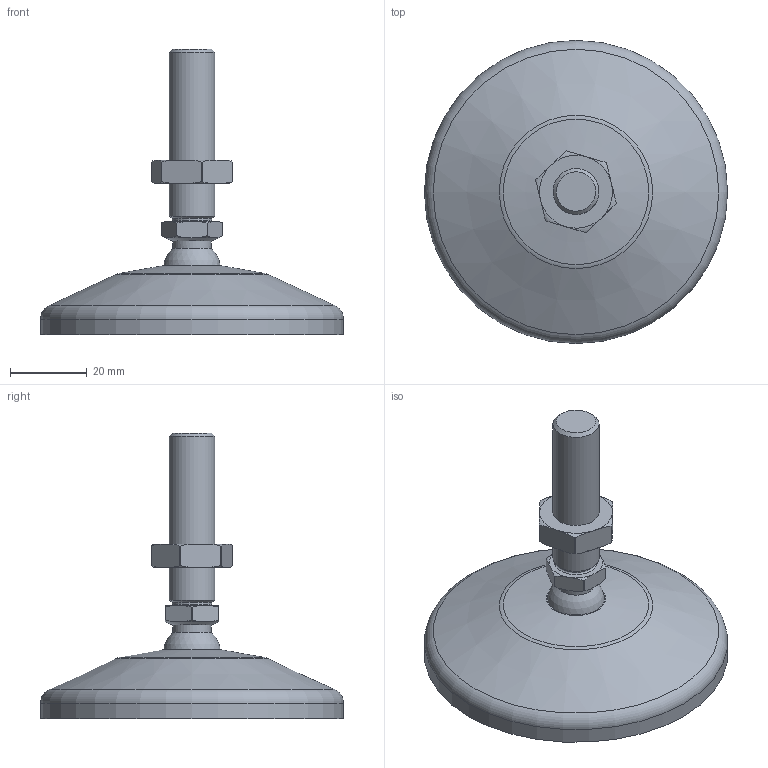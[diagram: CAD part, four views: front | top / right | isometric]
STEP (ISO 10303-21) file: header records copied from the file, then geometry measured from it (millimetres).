
FILE_DESCRIPTION(('STEP AP242'),'1');
FILE_NAME('TAPID80M12045PA.stp','2026-10-12T12:41:49',(' '),(' '),'Spatial InterOp 3D',' ',' ');
FILE_SCHEMA(('AP242_MANAGED_MODEL_BASED_3D_ENGINEERING_MIM_LF {1 0 10303 442 1 1 4}'));
Length unit declared in the file: millimetre
Products named in the file (4): TAPID80M12045PA; Ecrou H DIN 439 M12; Tige filetée M12x45 (Ø15); Embase PA Ø80 (Ø15)
Assembly tree (3 placements, depth 2):
  TAPID80M12045PA
    Ecrou H DIN 439 M12
    Tige filetée M12x45 (Ø15)
    Embase PA Ø80 (Ø15)
Bounding box: 79 x 79 x 74.5 mm (x, y, z)
Volume: 50284.2 mm3; surface area: 16904.1 mm2
Topology: 3 solids, 4 shells, 81 faces, 176 edges, 105 vertices
Faces by surface type: torus 30, plane 22, cylinder 20, cone 7, sphere 2
Full cylindrical faces by diameter (mm): 10 x1, 10.2 x1, 10.25 x1, 12 x1, 15 x1, 15.5 x1, 69 x1, 79 x1
Entity records: 3378 total; most frequent: CARTESIAN_POINT 910, DIRECTION 346, ORIENTED_EDGE 296, AXIS2_PLACEMENT_3D 161, EDGE_CURVE 148, EDGE_LOOP 108, VERTEX_POINT 100, FACE_OUTER_BOUND 95
